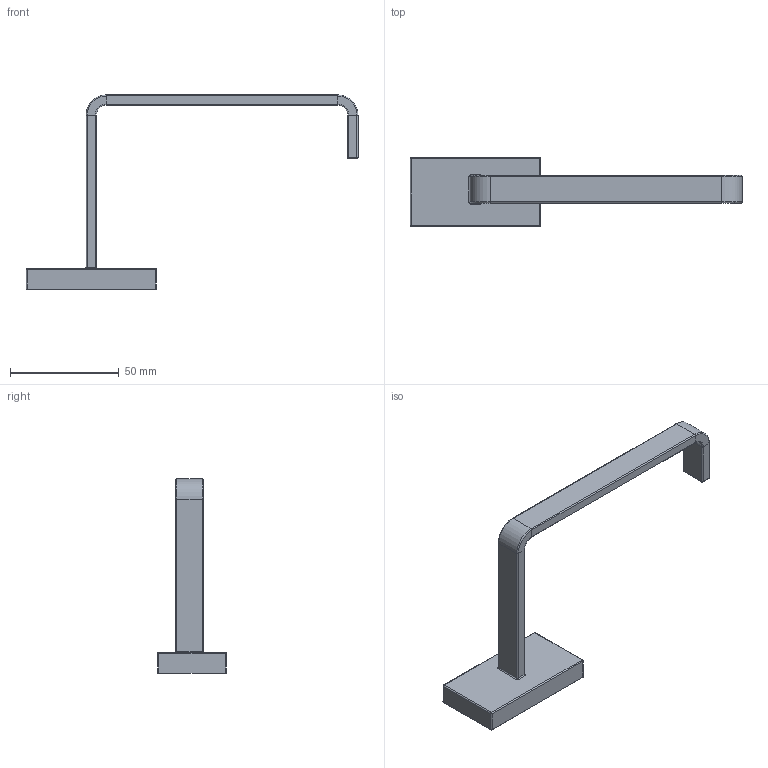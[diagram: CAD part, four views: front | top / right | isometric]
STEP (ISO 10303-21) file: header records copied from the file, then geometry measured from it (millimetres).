
FILE_DESCRIPTION (( 'STEP AP203' ), '1' );
FILE_NAME ('12133010.STEP', '2022-08-02T14:36:28', ( '' ), ( '' ), 'SwSTEP 2.0', 'SolidWorks 2018', '' );
FILE_SCHEMA (( 'CONFIG_CONTROL_DESIGN' ));
Length unit declared in the file: millimetre
Products named in the file (1): 12133010
Bounding box: 152.68 x 31.7 x 89.38 mm (x, y, z)
Surface area: 12936.6 mm2 (no closed solid volume)
Topology: 0 solids, 2 shells, 79 faces, 172 edges, 88 vertices
Faces by surface type: cylinder 32, plane 27, torus 12, sphere 8
Entity records: 2108 total; most frequent: DIRECTION 400, CARTESIAN_POINT 332, ORIENTED_EDGE 316, EDGE_CURVE 164, AXIS2_PLACEMENT_3D 156, VECTOR 88, VERTEX_POINT 88, LINE 88
